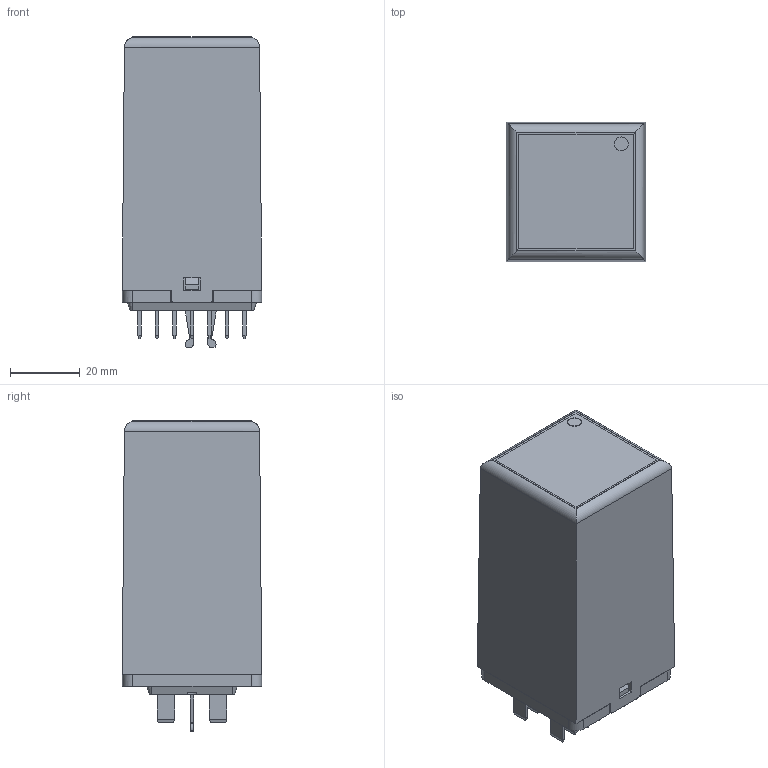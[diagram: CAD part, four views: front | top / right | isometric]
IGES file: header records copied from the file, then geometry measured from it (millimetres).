
Global section: file name: No Iges File Name specified; native system: Autodesk Inventor 2011; preprocessor: AutoDesk Inventor Iges Exporter R2011; author: oey; date: 20110308.134516; units: millimetre
Bounding box: 40 x 40.06 x 88.95 mm (x, y, z)
Volume: 29503.3 mm3; surface area: 35760.3 mm2
Topology: 1 solids, 1 shells, 1502 faces, 4290 edges, 2730 vertices
Faces by surface type: plane 774, bspline 393, cylinder 159, revolution 142, sphere 28, cone 4, torus 2
